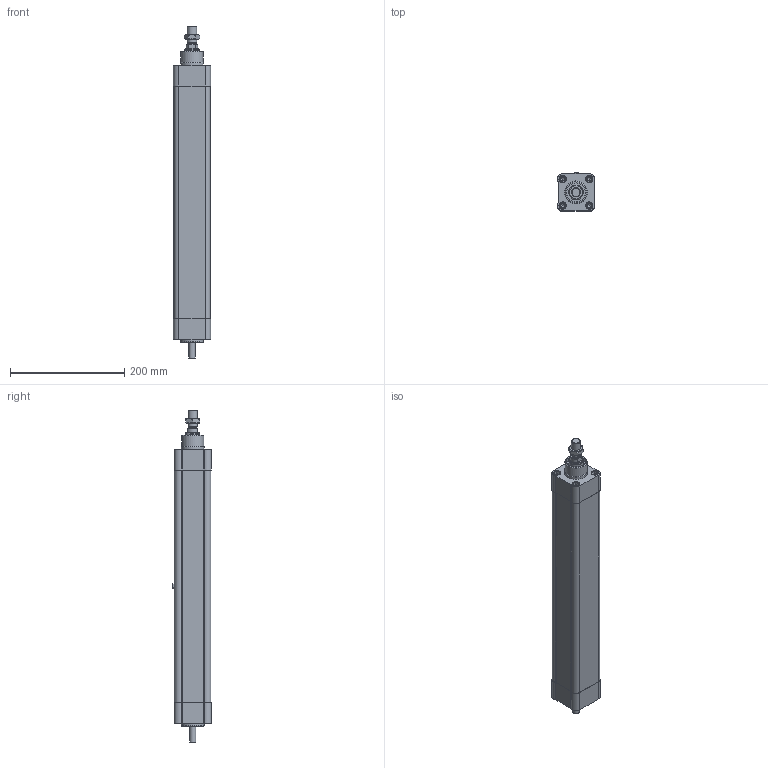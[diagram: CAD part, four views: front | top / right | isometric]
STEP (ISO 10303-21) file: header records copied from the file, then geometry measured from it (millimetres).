
FILE_DESCRIPTION(/* description */ ('STEP AP203'),/* implementation_level */ '2;1');
FILE_NAME(/* name */ 'PNCE 50 BS 2005 300 S(0)',/* time_stamp */ '2025-01-28T16:05:16+01:00',/* author */ ('License CC BY-ND 4.0'),/* organization */ ('CADENAS'),/* preprocessor_version */ 'ST-DEVELOPER v19.3',/* originating_system */ 'PARTsolutions',/* authorisation */ ' ');
FILE_SCHEMA (('CONFIG_CONTROL_DESIGN'));
Length unit declared in the file: millimetre
Products named in the file (6): PNCE 50 BS 2005 300 S(0); PNCE 50_drive cap; PNCE 50 300 S(0)_cylinder profil; PNCE 50_front cap; PNCE 50 300 S 0_piston rod; PNCE 50_nut
Assembly tree (5 placements, depth 2):
  PNCE 50 BS 2005 300 S(0)
    PNCE 50_drive cap
    PNCE 50 300 S(0)_cylinder profil
    PNCE 50_front cap
    PNCE 50 300 S 0_piston rod
    PNCE 50_nut
Bounding box: 64.97 x 67.5 x 581 mm (x, y, z)
Volume: 1440193 mm3; surface area: 322940.8 mm2
Topology: 5 solids, 5 shells, 261 faces, 582 edges, 381 vertices
Faces by surface type: plane 136, cylinder 91, cone 32, torus 2
Full cylindrical faces by diameter (mm): 5.3 x1, 6.647 x8, 6.7 x4, 8 x8, 8.566 x1, 8.7 x4, 10.6 x1, 11 x1, 12 x8, 13 x8, 14.2 x1, 14.376 x1, 16 x1, 24.8 x1, 25 x2, 31 x1, 33 x1, 39 x1, 40 x2, 49 x1, 50 x3
Entity records: 8357 total; most frequent: DIRECTION 1188, CARTESIAN_POINT 1180, ORIENTED_EDGE 930, AXIS2_PLACEMENT_3D 472, EDGE_CURVE 465, FACE_BOUND 425, EDGE_LOOP 416, VERTEX_POINT 364
